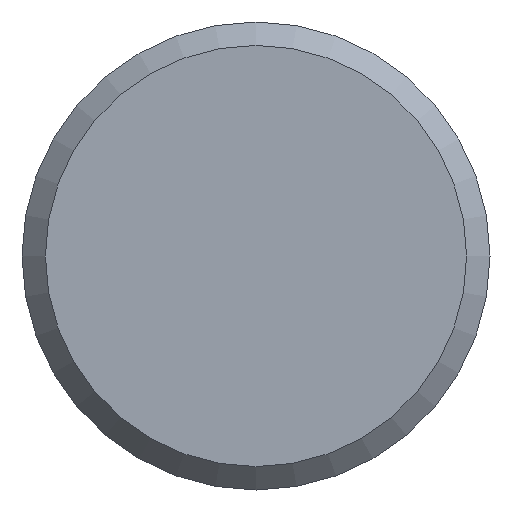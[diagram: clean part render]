
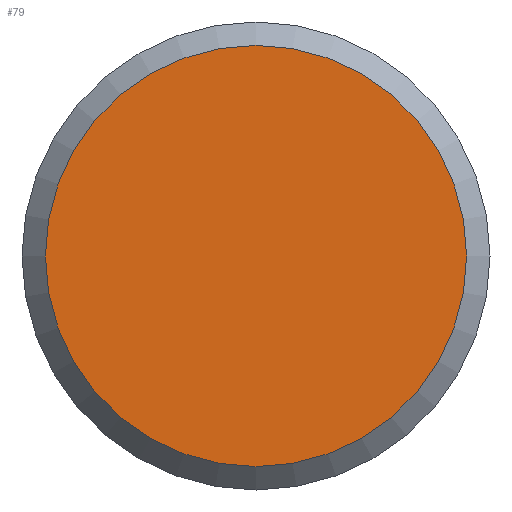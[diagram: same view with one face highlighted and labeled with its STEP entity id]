
A CAD part, front view. The second image highlights one B-rep face of the part: STEP entity #79.
In plain terms, the highlighted planar face has unit normal (0, -1, 0).
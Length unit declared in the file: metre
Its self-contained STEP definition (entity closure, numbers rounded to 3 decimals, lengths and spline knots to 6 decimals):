
#79 = ADVANCED_FACE( '', ( #92 ), #93, .T. );
#92 = FACE_OUTER_BOUND( '', #114, .T. );
#93 = PLANE( '', #115 );
#114 = EDGE_LOOP( '', ( #140 ) );
#115 = AXIS2_PLACEMENT_3D( '', #141, #142, #143 );
#140 = ORIENTED_EDGE( '', *, *, #171, .T. );
#141 = CARTESIAN_POINT( '', ( 0., 0., 0. ) );
#142 = DIRECTION( '', ( 0., -1., 0. ) );
#143 = DIRECTION( '', ( 0., 0., -1. ) );
#171 = EDGE_CURVE( '', #180, #180, #181, .T. );
#180 = VERTEX_POINT( '', #194 );
#181 = CIRCLE( '', #195, 0.018 );
#194 = CARTESIAN_POINT( '', ( 0., 0., -0.018 ) );
#195 = AXIS2_PLACEMENT_3D( '', #210, #211, #212 );
#210 = CARTESIAN_POINT( '', ( 0., 0., 0. ) );
#211 = DIRECTION( '', ( 0., -1., 0. ) );
#212 = DIRECTION( '', ( 0., 0., -1. ) );
